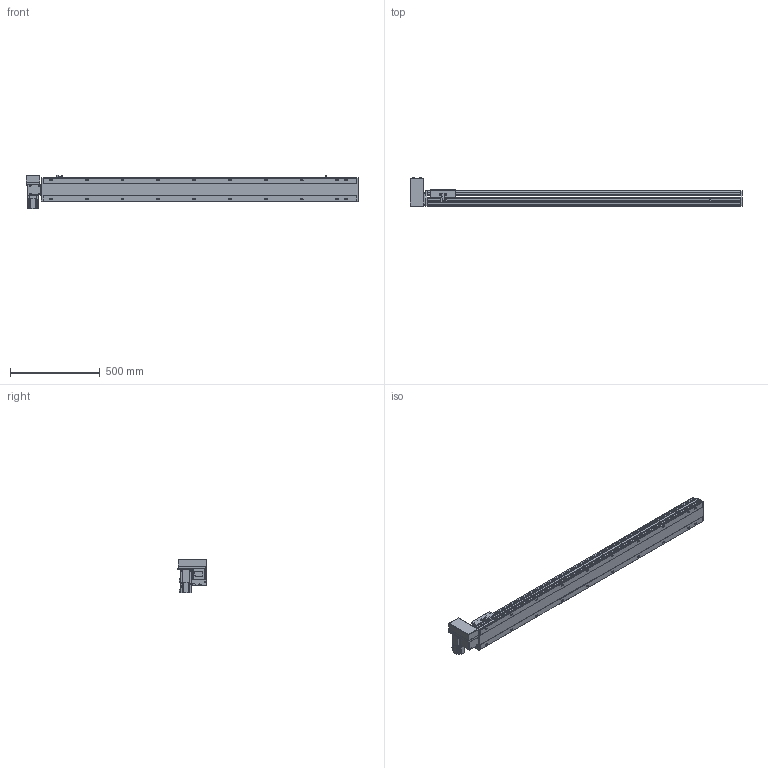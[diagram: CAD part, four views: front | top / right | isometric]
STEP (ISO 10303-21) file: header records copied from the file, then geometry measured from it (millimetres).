
FILE_DESCRIPTION(/* description */ ('STEP AP214'),/* implementation_level */ '2;1');
FILE_NAME(/* name */ 'PBS140S-P40-S1500-RU-T40-C1-N(0)',/* time_stamp */ '2022-06-09T02:55:37+02:00',/* author */ ('License CC BY-ND 4.0'),/* organization */ ('CADENAS'),/* preprocessor_version */ 'ST-DEVELOPER v18.102',/* originating_system */ 'PARTsolutions',/* authorisation */ ' ');
FILE_SCHEMA (('FEATURE_BASED_PROCESS_PLANNING','AUTOMOTIVE_DESIGN {1 0 10303 214 3 1 1}'));
Length unit declared in the file: millimetre
Products named in the file (7): PBS140S-P40-S1500-RU-T40-C1-N(0); PBS140S_sensor; PBS140S_plant; PBS140S_sliser; T40-p1; PBS140ST-RU_motors; PBS140S-S1500()_body
Assembly tree (8 placements, depth 2):
  PBS140S-P40-S1500-RU-T40-C1-N(0)
    PBS140S_sensor  x3
    PBS140S_plant
    PBS140S_sliser
    T40-p1
    PBS140ST-RU_motors
    PBS140S-S1500()_body
Bounding box: 1854 x 162.5 x 189.7 mm (x, y, z)
Volume: 9314719.7 mm3; surface area: 1592332.8 mm2
Topology: 8 solids, 8 shells, 1131 faces, 2991 edges, 1957 vertices
Faces by surface type: plane 714, cylinder 361, cone 46, sphere 8, torus 2
Full cylindrical faces by diameter (mm): 3.242 x4, 4 x2, 4.134 x4, 4.4 x8, 4.5 x2, 4.8 x4, 4.917 x28, 5.5 x7, 6 x2, 7 x22, 7.5 x8, 8 x12, 8.5 x4, 10.5 x20, 14 x1, 30 x2, 50 x2
Entity records: 32412 total; most frequent: CARTESIAN_POINT 6040, DIRECTION 5488, ORIENTED_EDGE 5182, EDGE_CURVE 2591, AXIS2_PLACEMENT_3D 1919, VERTEX_POINT 1801, LINE 1650, VECTOR 1650
